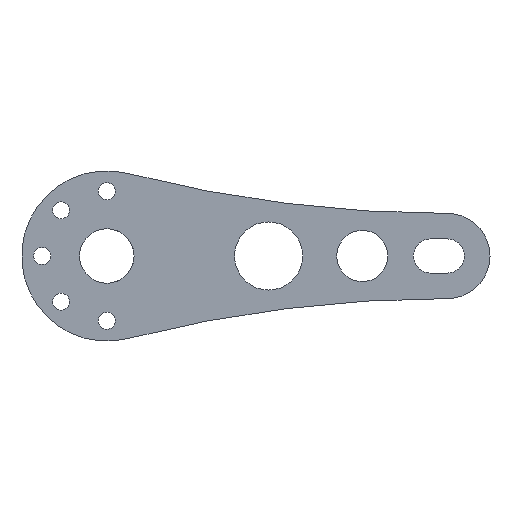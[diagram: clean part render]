
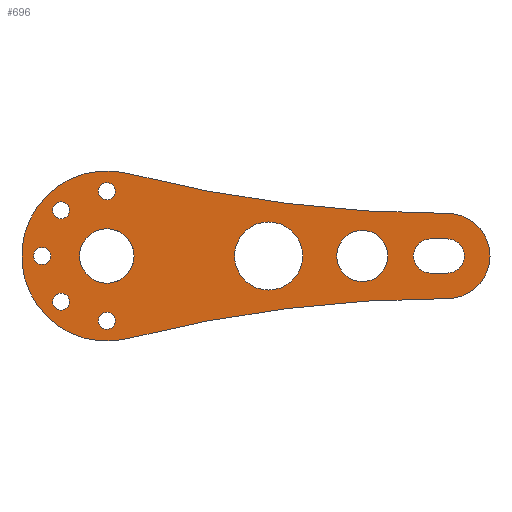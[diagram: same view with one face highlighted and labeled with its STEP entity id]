
A CAD part, front view. The second image highlights one B-rep face of the part: STEP entity #696.
In plain terms, the highlighted planar face has unit normal (0, -1, 0).
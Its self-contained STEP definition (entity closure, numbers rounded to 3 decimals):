
#23=CARTESIAN_POINT('',(0.,0.,0.));
#24=DIRECTION('',(0.,1.,0.));
#25=DIRECTION('',(0.246,0.,-0.969));
#26=AXIS2_PLACEMENT_3D('',#23,#24,#25);
#28=CARTESIAN_POINT('',(1200.,0.,4725.));
#29=DIRECTION('',(0.,-1.,0.));
#30=DIRECTION('',(-0.246,0.,-0.969));
#31=AXIS2_PLACEMENT_3D('',#28,#29,#30);
#33=CARTESIAN_POINT('',(1200.,0.,0.));
#34=DIRECTION('',(0.,1.,0.));
#35=DIRECTION('',(0.,0.,1.));
#36=AXIS2_PLACEMENT_3D('',#33,#34,#35);
#38=CARTESIAN_POINT('',(1200.,0.,-4725.));
#39=DIRECTION('',(0.,-1.,0.));
#40=DIRECTION('',(0.,0.,1.));
#41=AXIS2_PLACEMENT_3D('',#38,#39,#40);
#43=CARTESIAN_POINT('',(0.,0.,0.));
#44=DIRECTION('',(0.,-1.,0.));
#45=DIRECTION('',(1.,0.,0.));
#46=AXIS2_PLACEMENT_3D('',#43,#44,#45);
#48=CARTESIAN_POINT('',(0.,0.,0.));
#49=DIRECTION('',(0.,-1.,0.));
#50=DIRECTION('',(-1.,0.,0.));
#51=AXIS2_PLACEMENT_3D('',#48,#49,#50);
#53=CARTESIAN_POINT('',(570.,0.,0.));
#54=DIRECTION('',(0.,-1.,0.));
#55=DIRECTION('',(1.,0.,0.));
#56=AXIS2_PLACEMENT_3D('',#53,#54,#55);
#58=CARTESIAN_POINT('',(570.,0.,0.));
#59=DIRECTION('',(0.,-1.,0.));
#60=DIRECTION('',(-1.,0.,0.));
#61=AXIS2_PLACEMENT_3D('',#58,#59,#60);
#63=CARTESIAN_POINT('',(900.,0.,0.));
#64=DIRECTION('',(0.,-1.,0.));
#65=DIRECTION('',(1.,0.,0.));
#66=AXIS2_PLACEMENT_3D('',#63,#64,#65);
#68=CARTESIAN_POINT('',(900.,0.,0.));
#69=DIRECTION('',(0.,-1.,0.));
#70=DIRECTION('',(-1.,0.,0.));
#71=AXIS2_PLACEMENT_3D('',#68,#69,#70);
#73=CARTESIAN_POINT('',(0.,0.,-228.));
#74=DIRECTION('',(0.,-1.,0.));
#75=DIRECTION('',(1.,0.,0.));
#76=AXIS2_PLACEMENT_3D('',#73,#74,#75);
#78=CARTESIAN_POINT('',(0.,0.,-228.));
#79=DIRECTION('',(0.,-1.,0.));
#80=DIRECTION('',(-1.,0.,0.));
#81=AXIS2_PLACEMENT_3D('',#78,#79,#80);
#83=CARTESIAN_POINT('',(-161.22,0.,-161.22));
#84=DIRECTION('',(0.,-1.,0.));
#85=DIRECTION('',(0.707,0.,-0.707));
#86=AXIS2_PLACEMENT_3D('',#83,#84,#85);
#88=CARTESIAN_POINT('',(-161.22,0.,-161.22));
#89=DIRECTION('',(0.,-1.,0.));
#90=DIRECTION('',(-0.707,0.,0.707));
#91=AXIS2_PLACEMENT_3D('',#88,#89,#90);
#93=CARTESIAN_POINT('',(-228.,0.,0.));
#94=DIRECTION('',(0.,-1.,0.));
#95=DIRECTION('',(0.,0.,-1.));
#96=AXIS2_PLACEMENT_3D('',#93,#94,#95);
#98=CARTESIAN_POINT('',(-228.,0.,0.));
#99=DIRECTION('',(0.,-1.,0.));
#100=DIRECTION('',(0.,0.,1.));
#101=AXIS2_PLACEMENT_3D('',#98,#99,#100);
#103=CARTESIAN_POINT('',(-161.22,0.,161.22));
#104=DIRECTION('',(0.,-1.,0.));
#105=DIRECTION('',(-0.707,0.,-0.707));
#106=AXIS2_PLACEMENT_3D('',#103,#104,#105);
#108=CARTESIAN_POINT('',(-161.22,0.,161.22));
#109=DIRECTION('',(0.,-1.,0.));
#110=DIRECTION('',(0.707,0.,0.707));
#111=AXIS2_PLACEMENT_3D('',#108,#109,#110);
#113=CARTESIAN_POINT('',(0.,0.,228.));
#114=DIRECTION('',(0.,-1.,0.));
#115=DIRECTION('',(-1.,0.,0.));
#116=AXIS2_PLACEMENT_3D('',#113,#114,#115);
#118=CARTESIAN_POINT('',(0.,0.,228.));
#119=DIRECTION('',(0.,-1.,0.));
#120=DIRECTION('',(1.,0.,0.));
#121=AXIS2_PLACEMENT_3D('',#118,#119,#120);
#123=DIRECTION('',(-1.,0.,0.));
#124=VECTOR('',#123,60.);
#125=CARTESIAN_POINT('',(1200.,0.,-60.));
#126=LINE('',#125,#124);
#127=CARTESIAN_POINT('',(1200.,0.,0.));
#128=DIRECTION('',(0.,1.,0.));
#129=DIRECTION('',(0.,0.,1.));
#130=AXIS2_PLACEMENT_3D('',#127,#128,#129);
#132=DIRECTION('',(1.,0.,0.));
#133=VECTOR('',#132,60.);
#134=CARTESIAN_POINT('',(1140.,0.,60.));
#135=LINE('',#134,#133);
#136=CARTESIAN_POINT('',(1140.,0.,0.));
#137=DIRECTION('',(0.,1.,0.));
#138=DIRECTION('',(0.,0.,-1.));
#139=AXIS2_PLACEMENT_3D('',#136,#137,#138);
#495=CARTESIAN_POINT('',(96.,0.,0.));
#496=CARTESIAN_POINT('',(-96.,0.,0.));
#497=VERTEX_POINT('',#495);
#498=VERTEX_POINT('',#496);
#503=CARTESIAN_POINT('',(690.,0.,0.));
#504=CARTESIAN_POINT('',(450.,0.,0.));
#505=VERTEX_POINT('',#503);
#506=VERTEX_POINT('',#504);
#511=CARTESIAN_POINT('',(990.,0.,0.));
#512=CARTESIAN_POINT('',(810.,0.,0.));
#513=VERTEX_POINT('',#511);
#514=VERTEX_POINT('',#512);
#519=CARTESIAN_POINT('',(30.,0.,-228.));
#520=CARTESIAN_POINT('',(-30.,0.,-228.));
#521=VERTEX_POINT('',#519);
#522=VERTEX_POINT('',#520);
#527=CARTESIAN_POINT('',(-140.007,0.,-182.434));
#528=CARTESIAN_POINT('',(-182.434,0.,-140.007));
#529=VERTEX_POINT('',#527);
#530=VERTEX_POINT('',#528);
#535=CARTESIAN_POINT('',(-228.,0.,-30.));
#536=CARTESIAN_POINT('',(-228.,0.,30.));
#537=VERTEX_POINT('',#535);
#538=VERTEX_POINT('',#536);
#543=CARTESIAN_POINT('',(-182.434,0.,140.007));
#544=CARTESIAN_POINT('',(-140.007,0.,182.434));
#545=VERTEX_POINT('',#543);
#546=VERTEX_POINT('',#544);
#551=CARTESIAN_POINT('',(-30.,0.,228.));
#552=CARTESIAN_POINT('',(30.,0.,228.));
#553=VERTEX_POINT('',#551);
#554=VERTEX_POINT('',#552);
#559=CARTESIAN_POINT('',(1200.,0.,-60.));
#560=CARTESIAN_POINT('',(1140.,0.,-60.));
#561=VERTEX_POINT('',#559);
#562=VERTEX_POINT('',#560);
#563=CARTESIAN_POINT('',(1140.,0.,60.));
#564=VERTEX_POINT('',#563);
#565=CARTESIAN_POINT('',(1200.,0.,60.));
#566=VERTEX_POINT('',#565);
#607=CARTESIAN_POINT('',(73.846,0.,-290.769));
#608=CARTESIAN_POINT('',(73.846,0.,290.769));
#609=VERTEX_POINT('',#607);
#610=VERTEX_POINT('',#608);
#611=CARTESIAN_POINT('',(1200.,0.,150.));
#612=VERTEX_POINT('',#611);
#613=CARTESIAN_POINT('',(1200.,0.,-150.));
#614=VERTEX_POINT('',#613);
#623=CARTESIAN_POINT('',(0.,0.,0.));
#624=DIRECTION('',(0.,1.,0.));
#625=DIRECTION('',(1.,0.,0.));
#626=AXIS2_PLACEMENT_3D('',#623,#624,#625);
#627=PLANE('',#626);
#629=ORIENTED_EDGE('',*,*,#628,.T.);
#631=ORIENTED_EDGE('',*,*,#630,.T.);
#633=ORIENTED_EDGE('',*,*,#632,.T.);
#635=ORIENTED_EDGE('',*,*,#634,.T.);
#636=EDGE_LOOP('',(#629,#631,#633,#635));
#637=FACE_OUTER_BOUND('',#636,.F.);
#639=ORIENTED_EDGE('',*,*,#638,.T.);
#641=ORIENTED_EDGE('',*,*,#640,.T.);
#642=EDGE_LOOP('',(#639,#641));
#643=FACE_BOUND('',#642,.F.);
#645=ORIENTED_EDGE('',*,*,#644,.T.);
#647=ORIENTED_EDGE('',*,*,#646,.T.);
#648=EDGE_LOOP('',(#645,#647));
#649=FACE_BOUND('',#648,.F.);
#651=ORIENTED_EDGE('',*,*,#650,.T.);
#653=ORIENTED_EDGE('',*,*,#652,.T.);
#654=EDGE_LOOP('',(#651,#653));
#655=FACE_BOUND('',#654,.F.);
#657=ORIENTED_EDGE('',*,*,#656,.T.);
#659=ORIENTED_EDGE('',*,*,#658,.T.);
#660=EDGE_LOOP('',(#657,#659));
#661=FACE_BOUND('',#660,.F.);
#663=ORIENTED_EDGE('',*,*,#662,.T.);
#665=ORIENTED_EDGE('',*,*,#664,.T.);
#666=EDGE_LOOP('',(#663,#665));
#667=FACE_BOUND('',#666,.F.);
#669=ORIENTED_EDGE('',*,*,#668,.T.);
#671=ORIENTED_EDGE('',*,*,#670,.T.);
#672=EDGE_LOOP('',(#669,#671));
#673=FACE_BOUND('',#672,.F.);
#675=ORIENTED_EDGE('',*,*,#674,.T.);
#677=ORIENTED_EDGE('',*,*,#676,.T.);
#678=EDGE_LOOP('',(#675,#677));
#679=FACE_BOUND('',#678,.F.);
#681=ORIENTED_EDGE('',*,*,#680,.T.);
#683=ORIENTED_EDGE('',*,*,#682,.T.);
#684=EDGE_LOOP('',(#681,#683));
#685=FACE_BOUND('',#684,.F.);
#687=ORIENTED_EDGE('',*,*,#686,.F.);
#689=ORIENTED_EDGE('',*,*,#688,.F.);
#691=ORIENTED_EDGE('',*,*,#690,.F.);
#693=ORIENTED_EDGE('',*,*,#692,.F.);
#694=EDGE_LOOP('',(#687,#689,#691,#693));
#695=FACE_BOUND('',#694,.F.);
#696=ADVANCED_FACE('',(#637,#643,#649,#655,#661,#667,#673,#679,#685,#695),#627,
.F.);
#27=CIRCLE('',#26,300.);
#32=CIRCLE('',#31,4575.);
#37=CIRCLE('',#36,150.);
#42=CIRCLE('',#41,4575.);
#47=CIRCLE('',#46,96.);
#52=CIRCLE('',#51,96.);
#57=CIRCLE('',#56,120.);
#62=CIRCLE('',#61,120.);
#67=CIRCLE('',#66,90.);
#72=CIRCLE('',#71,90.);
#77=CIRCLE('',#76,30.);
#82=CIRCLE('',#81,30.);
#87=CIRCLE('',#86,30.);
#92=CIRCLE('',#91,30.);
#97=CIRCLE('',#96,30.);
#102=CIRCLE('',#101,30.);
#107=CIRCLE('',#106,30.);
#112=CIRCLE('',#111,30.);
#117=CIRCLE('',#116,30.);
#122=CIRCLE('',#121,30.);
#131=CIRCLE('',#130,60.);
#140=CIRCLE('',#139,60.);
#628=EDGE_CURVE('',#609,#610,#27,.T.);
#630=EDGE_CURVE('',#610,#612,#32,.T.);
#632=EDGE_CURVE('',#612,#614,#37,.T.);
#634=EDGE_CURVE('',#614,#609,#42,.T.);
#638=EDGE_CURVE('',#497,#498,#47,.T.);
#640=EDGE_CURVE('',#498,#497,#52,.T.);
#644=EDGE_CURVE('',#505,#506,#57,.T.);
#646=EDGE_CURVE('',#506,#505,#62,.T.);
#650=EDGE_CURVE('',#513,#514,#67,.T.);
#652=EDGE_CURVE('',#514,#513,#72,.T.);
#656=EDGE_CURVE('',#521,#522,#77,.T.);
#658=EDGE_CURVE('',#522,#521,#82,.T.);
#662=EDGE_CURVE('',#529,#530,#87,.T.);
#664=EDGE_CURVE('',#530,#529,#92,.T.);
#668=EDGE_CURVE('',#537,#538,#97,.T.);
#670=EDGE_CURVE('',#538,#537,#102,.T.);
#674=EDGE_CURVE('',#545,#546,#107,.T.);
#676=EDGE_CURVE('',#546,#545,#112,.T.);
#680=EDGE_CURVE('',#553,#554,#117,.T.);
#682=EDGE_CURVE('',#554,#553,#122,.T.);
#686=EDGE_CURVE('',#561,#562,#126,.T.);
#688=EDGE_CURVE('',#566,#561,#131,.T.);
#690=EDGE_CURVE('',#564,#566,#135,.T.);
#692=EDGE_CURVE('',#562,#564,#140,.T.);
